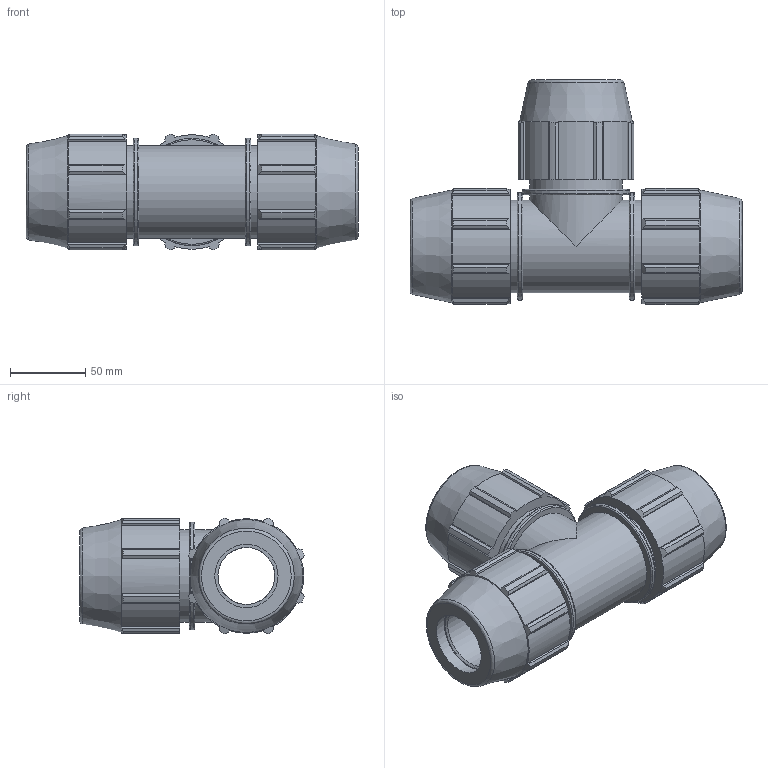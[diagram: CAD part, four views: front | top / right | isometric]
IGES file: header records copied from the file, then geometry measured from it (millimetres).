
Global section: file name: 0704M0130.ipt; native system: Autodesk Inventor 2019; preprocessor: unknown; author: KIM; date: 20210826.124541; units: inch
Bounding box: 220.98 x 149.6 x 77.2 mm (x, y, z)
Volume: 758472.1 mm3; surface area: 126507 mm2
Topology: 1 solids, 1 shells, 212 faces, 616 edges, 416 vertices
Faces by surface type: plane 114, cylinder 56, cone 22, revolution 20
Full cylindrical faces by diameter (mm): 61.531 x5, 71.377 x3
